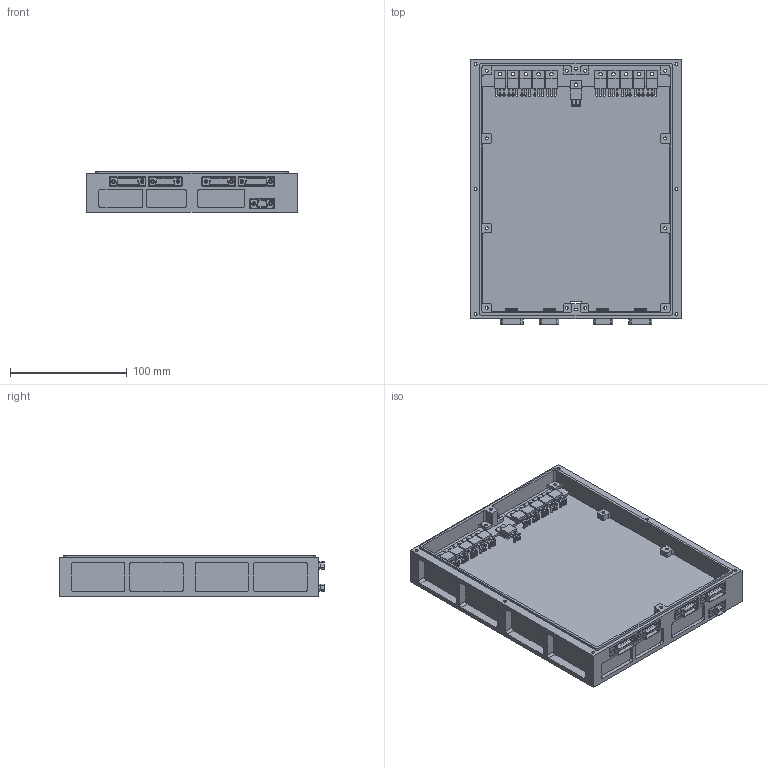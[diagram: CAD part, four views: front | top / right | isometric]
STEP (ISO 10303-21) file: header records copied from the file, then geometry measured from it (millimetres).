
FILE_DESCRIPTION (( 'STEP AP203' ), '1' );
FILE_NAME ('E80.B5S-I.STEP', '2025-07-15T08:28:16', ( 'China' ), ( 'Home' ), 'SwSTEP 2.0', 'SolidWorks 2016', '' );
FILE_SCHEMA (( 'CONFIG_CONTROL_DESIGN' ));
Length unit declared in the file: millimetre
Products named in the file (1): E80.B5S-I
Bounding box: 180 x 226.8 x 35 mm (x, y, z)
Surface area: 163685.5 mm2 (no closed solid volume)
Topology: 0 solids, 26 shells, 1273 faces, 4866 edges, 3619 vertices
Faces by surface type: plane 646, cylinder 627
Entity records: 56175 total; most frequent: CARTESIAN_POINT 15249, DIRECTION 8152, ORIENTED_EDGE 7824, EDGE_CURVE 4866, VERTEX_POINT 3619, LINE 3114, VECTOR 3114, AXIS2_PLACEMENT_3D 2519
